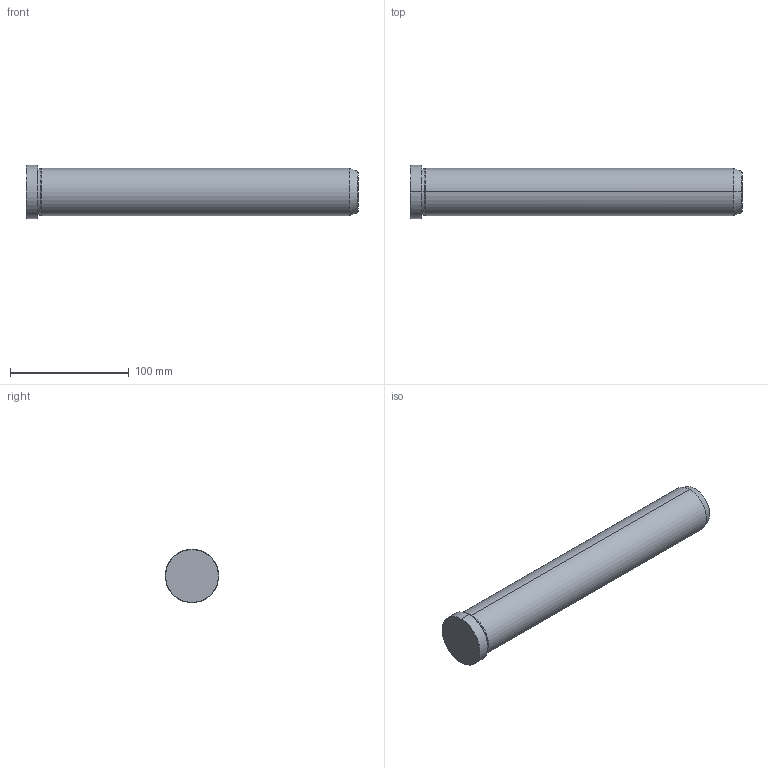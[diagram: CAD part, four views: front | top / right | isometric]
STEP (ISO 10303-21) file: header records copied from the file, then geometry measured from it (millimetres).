
FILE_DESCRIPTION(('CATIA V5 STEP Exchange'),'2;1');
FILE_NAME('C:\Users\Utente\Desktop\IO LAVORO\3D X SITO CF\X SITO\PLASTICA\549\549-40X280.stp','2021-12-18T08:13:07+00:00',('none'),('none'),'CATIA Version 5 Release 20 GA (IN-10)','CATIA V5 STEP AP203','none');
FILE_SCHEMA(('CONFIG_CONTROL_DESIGN'));
Length unit declared in the file: millimetre
Products named in the file (1): 549-40X280
Bounding box: 280 x 45 x 45 mm (x, y, z)
Volume: 353838.6 mm3; surface area: 38198.9 mm2
Topology: 1 solids, 1 shells, 19 faces, 56 edges, 40 vertices
Faces by surface type: cone 8, cylinder 6, plane 3, torus 2
Entity records: 736 total; most frequent: CARTESIAN_POINT 192, ORIENTED_EDGE 112, DIRECTION 86, EDGE_CURVE 56, AXIS2_PLACEMENT_3D 54, VERTEX_POINT 40, CIRCLE 34, EDGE_LOOP 20
